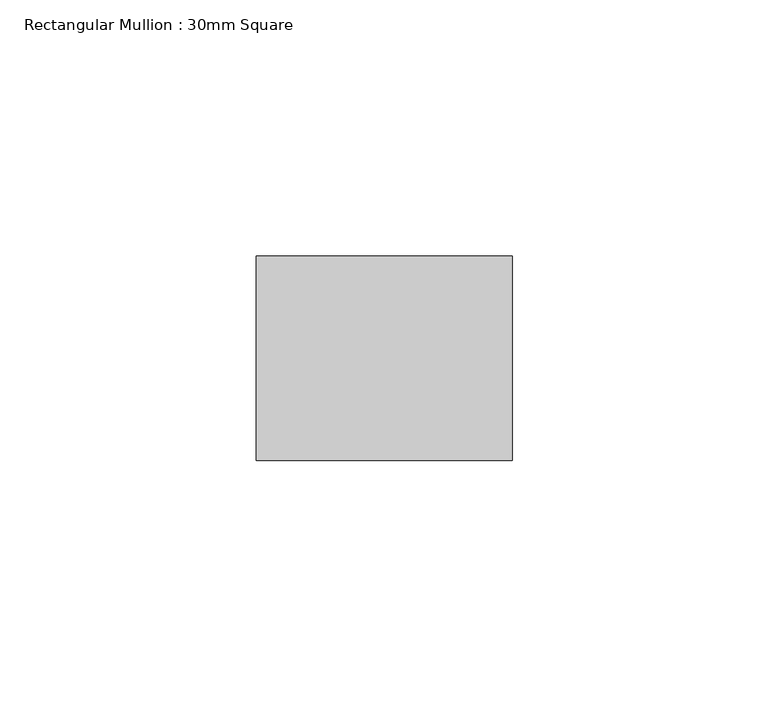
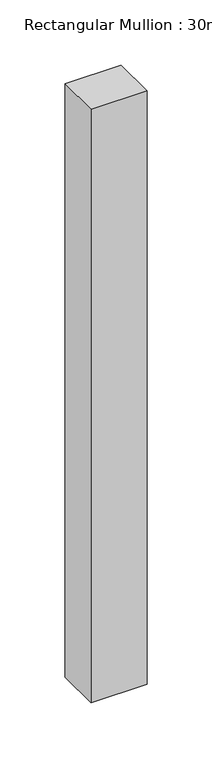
"""IFC4 building model written with IfcOpenShell, lengths in millimetres: member geometry, Rectangular Mullion : 30mm Square."""

from ifc_helpers import new_model, si_unit, frame, origin, place, context, project, spatial, polyline, outline, extrude, source, transform, mapped, element, save


def rectangular_mullion_30mm_square_72468e5d(model_context):
    return source(origin(), model_context, "Body", "SweptSolid", [
        extrude(outline(polyline([(25.0, 20.0), (25.0, -20.0), (-25.0, -20.0), (-25.0, 20.0), (25.0, 20.0)])), frame((0.0, 0.0, -557.1900063), z_axis=(0.0, 0.0, 1.0), x_axis=(1.0, 0.0, 0.0)), (0.0, 0.0, 1.0), 557.1900063),
    ])


if __name__ == "__main__":
    model = new_model("IFC4")
    model_context = context("Model", 3, world=origin())
    ifc_project = project(units=[si_unit("LENGTHUNIT", "METRE", prefix="MILLI")], contexts=[model_context])
    site = spatial("IfcSite", under=ifc_project)
    building = spatial("IfcBuilding", under=site)
    placement = place(None, origin())
    rectangular_mullion_30mm_square_shape = rectangular_mullion_30mm_square_72468e5d(model_context)
    element("IfcMember", 1, ObjectType="Rectangular Mullion : 30mm Square", at=placement, inside=building, context=model_context, shape_type="MappedRepresentation", body=[
        mapped(rectangular_mullion_30mm_square_shape, transform((0.0, 0.0, 0.0), x_axis=(1.0, 0.0, 0.0), y_axis=(0.0, 1.0, 0.0), z_axis=(0.0, 0.0, 1.0))),
    ])
    save(model, "model.ifc")
